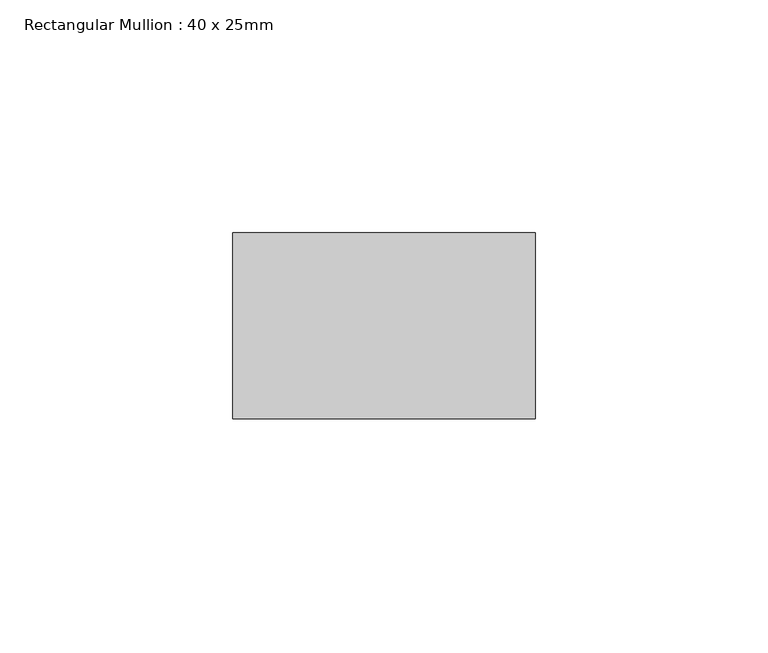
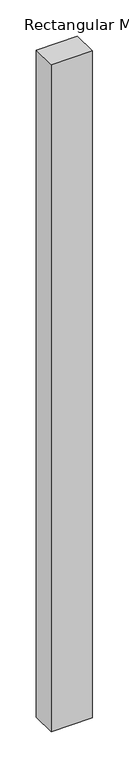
"""IFC4 building model written with IfcOpenShell, lengths in millimetres: member geometry, Rectangular Mullion : 40 x 25mm."""

from ifc_helpers import new_model, si_unit, frame, origin, place, context, project, spatial, polyline, outline, extrude, source, transform, mapped, element, save


def rectangular_mullion_40_x_25mm_2b2af9c5(model_context):
    return source(origin(), model_context, "Body", "SweptSolid", [
        extrude(outline(polyline([(0.0, -20.0), (0.0, -60.0), (-65.0, -60.0), (-65.0, -20.0), (0.0, -20.0)])), frame((0.0, 0.0, -1117.0195689), z_axis=(0.0, 0.0, 1.0), x_axis=(1.0, 0.0, 0.0)), (0.0, 0.0, 1.0), 1117.0195689),
    ])


if __name__ == "__main__":
    model = new_model("IFC4")
    model_context = context("Model", 3, world=origin())
    ifc_project = project(units=[si_unit("LENGTHUNIT", "METRE", prefix="MILLI")], contexts=[model_context])
    site = spatial("IfcSite", under=ifc_project)
    building = spatial("IfcBuilding", under=site)
    placement = place(None, origin())
    rectangular_mullion_40_x_25mm_shape = rectangular_mullion_40_x_25mm_2b2af9c5(model_context)
    element("IfcMember", 1, ObjectType="Rectangular Mullion : 40 x 25mm", at=placement, inside=building, context=model_context, shape_type="MappedRepresentation", body=[
        mapped(rectangular_mullion_40_x_25mm_shape, transform((0.0, 0.0, 0.0), x_axis=(1.0, 0.0, 0.0), y_axis=(0.0, 1.0, 0.0), z_axis=(0.0, 0.0, 1.0))),
    ])
    save(model, "model.ifc")
